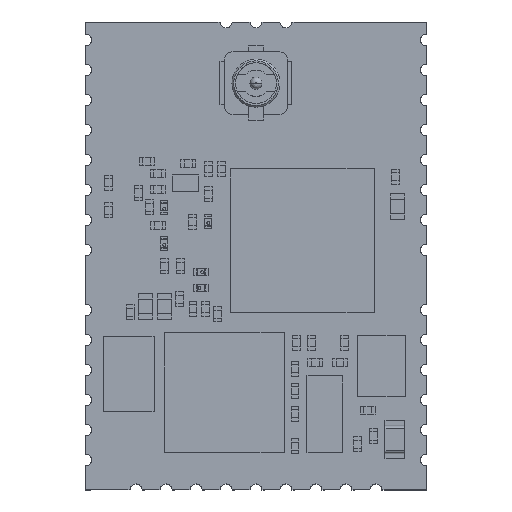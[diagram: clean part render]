
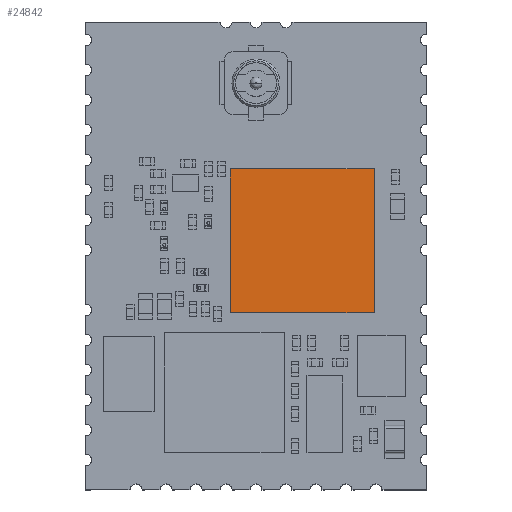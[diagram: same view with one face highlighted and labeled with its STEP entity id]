
A CAD part, top view. The second image highlights one B-rep face of the part: STEP entity #24842.
In plain terms, the highlighted planar face has unit normal (0, 0, 1).
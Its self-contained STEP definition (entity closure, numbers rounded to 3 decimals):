
#24713 = VERTEX_POINT('',#24714);
#24714 = CARTESIAN_POINT('',(-3.,-3.,1.));
#24720 = EDGE_CURVE('',#24713,#24721,#24723,.T.);
#24721 = VERTEX_POINT('',#24722);
#24722 = CARTESIAN_POINT('',(3.,-3.,1.));
#24723 = LINE('',#24724,#24725);
#24724 = CARTESIAN_POINT('',(-3.,-3.,1.));
#24725 = VECTOR('',#24726,1.);
#24726 = DIRECTION('',(1.,0.,0.));
#24751 = EDGE_CURVE('',#24721,#24752,#24754,.T.);
#24752 = VERTEX_POINT('',#24753);
#24753 = CARTESIAN_POINT('',(3.,3.,1.));
#24754 = LINE('',#24755,#24756);
#24755 = CARTESIAN_POINT('',(3.,-3.,1.));
#24756 = VECTOR('',#24757,1.);
#24757 = DIRECTION('',(0.,1.,0.));
#24782 = EDGE_CURVE('',#24752,#24783,#24785,.T.);
#24783 = VERTEX_POINT('',#24784);
#24784 = CARTESIAN_POINT('',(-3.,3.,1.));
#24785 = LINE('',#24786,#24787);
#24786 = CARTESIAN_POINT('',(3.,3.,1.));
#24787 = VECTOR('',#24788,1.);
#24788 = DIRECTION('',(-1.,0.,0.));
#24813 = EDGE_CURVE('',#24783,#24713,#24814,.T.);
#24814 = LINE('',#24815,#24816);
#24815 = CARTESIAN_POINT('',(-3.,3.,1.));
#24816 = VECTOR('',#24817,1.);
#24817 = DIRECTION('',(0.,-1.,0.));
#24842 = ADVANCED_FACE('',(#24843),#24849,.F.);
#24843 = FACE_BOUND('',#24844,.T.);
#24844 = EDGE_LOOP('',(#24845,#24846,#24847,#24848));
#24845 = ORIENTED_EDGE('',*,*,#24720,.T.);
#24846 = ORIENTED_EDGE('',*,*,#24751,.T.);
#24847 = ORIENTED_EDGE('',*,*,#24782,.T.);
#24848 = ORIENTED_EDGE('',*,*,#24813,.T.);
#24849 = PLANE('',#24850);
#24850 = AXIS2_PLACEMENT_3D('',#24851,#24852,#24853);
#24851 = CARTESIAN_POINT('',(-3.,-3.,1.));
#24852 = DIRECTION('',(0.,0.,-1.));
#24853 = DIRECTION('',(-1.,0.,0.));
